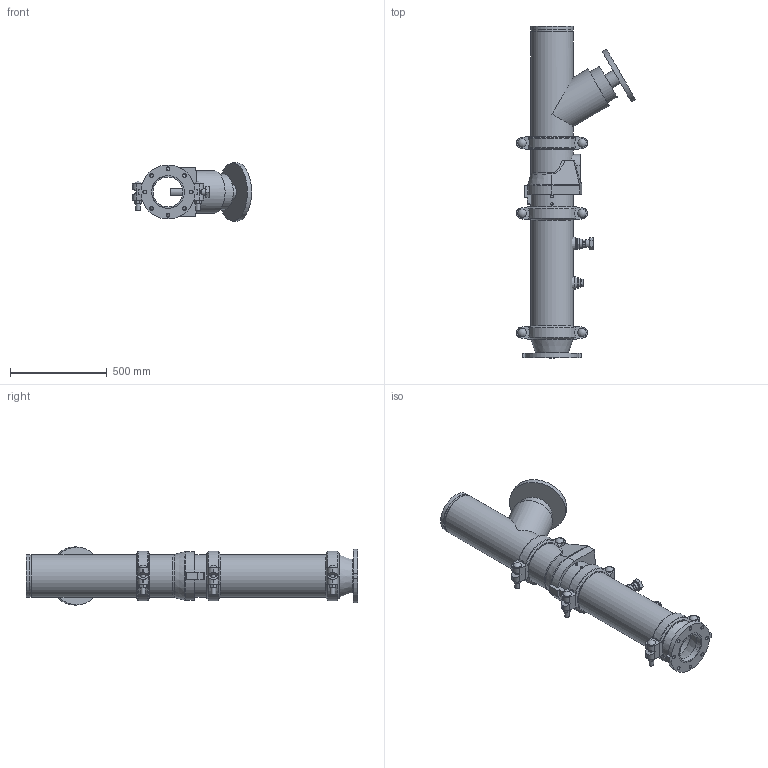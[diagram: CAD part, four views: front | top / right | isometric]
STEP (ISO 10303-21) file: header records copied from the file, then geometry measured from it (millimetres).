
FILE_DESCRIPTION(/* description */ ('VIC DVI PUMP DROP VERT S/383 (OGSxFLG) (S/924-1.25)','CAx-IF Rec.Pracs.---Representation and Presentation of Product Manufacturing Information (PMI)---4.0---2014-10-13'),/* implementation_level */ '2;1');
FILE_NAME(/* name */ 'C:\Users\Public\Documents\Victaulic.Temp\A849\Victaulic_IPS_Vertical DVI_CL 150_Series 383 (OGSxFLG)_924 (1.25)_08.0x06.0 (200x150).stp',/* time_stamp */ '2022-07-25T11:41:37+02:00',/* author */ ('Vjadhav'),/* organization */ ('Victaulic'),/* preprocessor_version */ 'ST-DEVELOPER v18',/* originating_system */ 'Autodesk Inventor 2020',/* authorisation */ '');
FILE_SCHEMA (('AP242_MANAGED_MODEL_BASED_3D_ENGINEERING_MIM_LF { 1 0 10303 442 1 1 4 }'));
Length unit declared in the file: inch
Products named in the file (9): 383_924 (1.25)-08.0x06.0; 741-06.0; 050-08.0x06.0; Pipe-08.0; 177N-08.0; 789-08.0; 779-08.0; 924-04.0x01.25; 923-04.0x0.75
Assembly tree (10 placements, depth 2):
  383_924 (1.25)-08.0x06.0
    741-06.0
    050-08.0x06.0
    177N-08.0  x3
    Pipe-08.0
    789-08.0
    779-08.0
    924-04.0x01.25
    923-04.0x0.75
Bounding box: 615.44 x 1714.5 x 299.97 mm (x, y, z)
Volume: 27412238.1 mm3; surface area: 3475361.6 mm2
Topology: 10 solids, 11 shells, 536 faces, 1407 edges, 946 vertices
Faces by surface type: plane 312, cylinder 179, cone 19, torus 18, sphere 6, bspline 2
Full cylindrical faces by diameter (mm): 13.716 x4, 19.05 x8, 21.336 x1, 23.774 x6, 26.67 x2, 38.608 x1, 42.164 x1, 42.85 x6, 45.974 x4, 48.514 x1, 55.626 x2, 76.2 x1, 154.051 x1, 163.957 x1, 168.275 x3, 183.515 x1, 202.717 x4, 206.375 x3, 214.401 x7, 219.075 x19, 299.974 x1
Entity records: 12065 total; most frequent: CARTESIAN_POINT 2445, DIRECTION 1976, ORIENTED_EDGE 1794, EDGE_CURVE 897, AXIS2_PLACEMENT_3D 755, VERTEX_POINT 610, LINE 466, VECTOR 466
